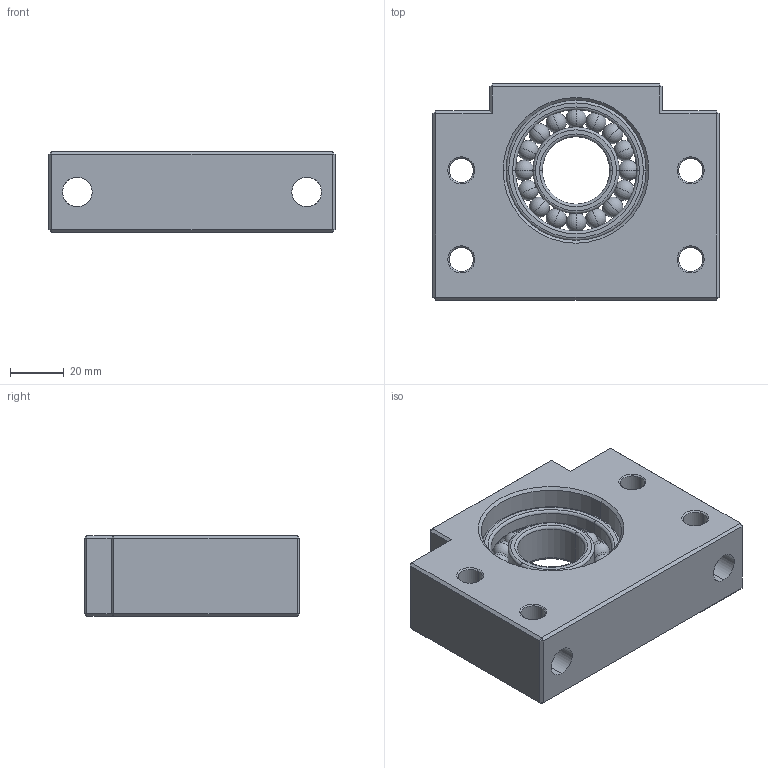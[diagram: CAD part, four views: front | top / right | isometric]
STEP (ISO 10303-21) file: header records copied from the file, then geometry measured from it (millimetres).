
FILE_DESCRIPTION (( 'STEP AP203' ), '1' );
FILE_NAME ('BF25²Õ¦X¥ó.STEP', '2017-12-27T08:17:07', ( '' ), ( '' ), 'SwSTEP 2.0', 'SolidWorks 2017', '' );
FILE_SCHEMA (( 'CONFIG_CONTROL_DESIGN' ));
Length unit declared in the file: millimetre
Products named in the file (1): BF25組合件
Bounding box: 106 x 80 x 30 mm (x, y, z)
Surface area: 42192.1 mm2 (no closed solid volume)
Topology: 0 solids, 19 shells, 160 faces, 416 edges, 256 vertices
Faces by surface type: plane 50, cylinder 36, sphere 32, cone 24, torus 18
Entity records: 4909 total; most frequent: CARTESIAN_POINT 1345, DIRECTION 776, ORIENTED_EDGE 664, EDGE_CURVE 336, AXIS2_PLACEMENT_3D 311, VERTEX_POINT 208, EDGE_LOOP 180, FACE_OUTER_BOUND 160
